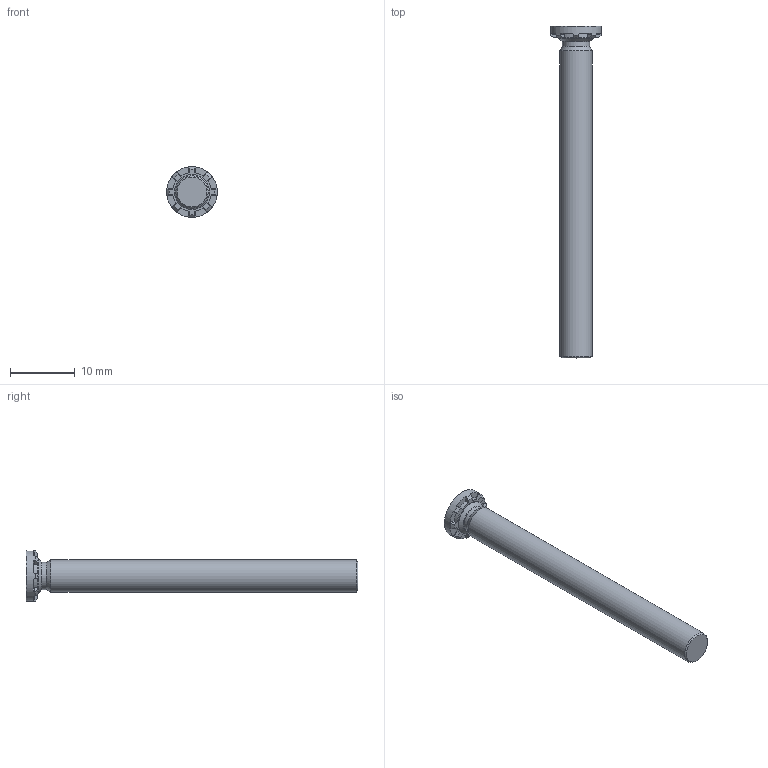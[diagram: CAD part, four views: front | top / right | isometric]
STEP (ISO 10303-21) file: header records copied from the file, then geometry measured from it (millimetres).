
FILE_DESCRIPTION(/* description */ (''),/* implementation_level */ '2;1');
FILE_NAME(/* name */ 'C:\Users\keval.kumar\Desktop\Fastit\Clinch Screw- HFH Range\M5\Clinch Screw-HFH Range_M5x50.stp',/* time_stamp */ '2024-03-12T14:31:53+05:00',/* author */ ('keval.kumar'),/* organization */ (''),/* preprocessor_version */ 'ST-DEVELOPER v18.1',/* originating_system */ 'Autodesk Inventor 2022',/* authorisation */ '');
FILE_SCHEMA (('AUTOMOTIVE_DESIGN { 1 0 10303 214 3 1 1 }'));
Length unit declared in the file: millimetre
Products named in the file (1): Clinch Screw-HFH Range_M5x50
Bounding box: 7.8 x 51.14 x 7.8 mm (x, y, z)
Volume: 1038.5 mm3; surface area: 914.1 mm2
Topology: 1 solids, 1 shells, 68 faces, 193 edges, 128 vertices
Faces by surface type: plane 43, cylinder 12, cone 11, torus 2
Full cylindrical faces by diameter (mm): 4.2 x1, 5 x1, 5.4 x1, 7.8 x1
Entity records: 2278 total; most frequent: CARTESIAN_POINT 422, DIRECTION 405, ORIENTED_EDGE 386, EDGE_CURVE 193, AXIS2_PLACEMENT_3D 159, VERTEX_POINT 128, LINE 87, VECTOR 87
